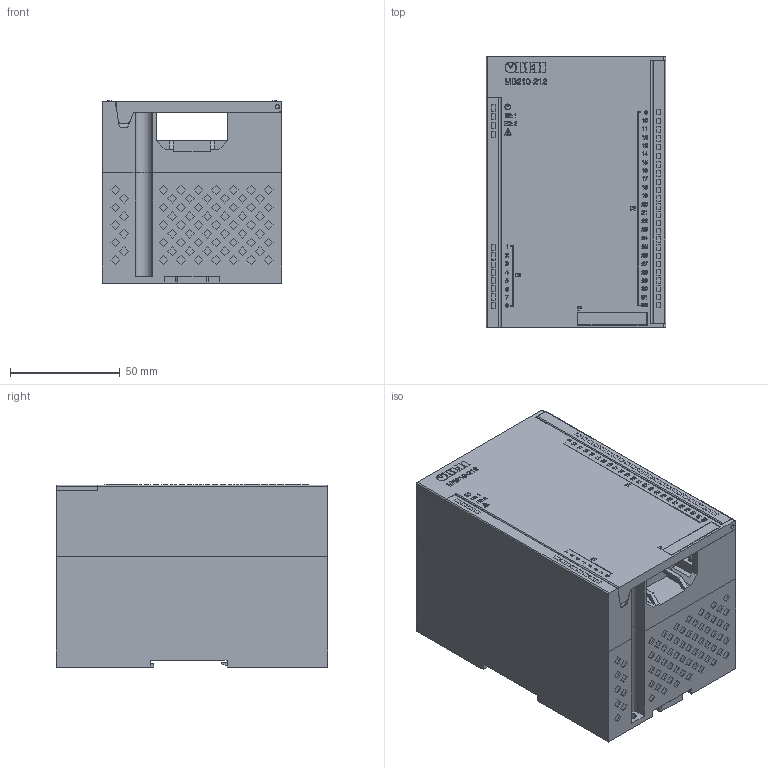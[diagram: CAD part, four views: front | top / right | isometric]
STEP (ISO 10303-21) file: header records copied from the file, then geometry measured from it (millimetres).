
FILE_DESCRIPTION (( 'STEP AP203' ), '1' );
FILE_NAME ('3D 沓麧錪 斨210-212.STEP', '2020-08-17T07:33:49', ( '' ), ( '' ), 'SwSTEP 2.0', 'SolidWorks 2015', '' );
FILE_SCHEMA (( 'CONFIG_CONTROL_DESIGN' ));
Products named in the file (9): 署赅 搪210_00; Ðîçåòêà ÌÂ210 — ëåâàÿ; 扻豵鵨 斨210_00; Ðîçåòêà ÌÂ210; micro usb b; Ethernet; 婰膲僗闉 斨210; Êëåììíèê 2çåë; 3D 沓麧錪 斨210-212
Assembly tree (9 placements, depth 2):
  3D 沓麧錪 斨210-212
    扻豵鵨 斨210_00
    婰膲僗闉 斨210
    Ðîçåòêà ÌÂ210
    Ðîçåòêà ÌÂ210 — ëåâàÿ
    署赅 搪210_00
    micro usb b
    Ethernet  x2
    Êëåììíèê 2çåë
Bounding box: 82 x 124.04 x 83.1 mm (x, y, z)
Volume: 728875.9 mm3; surface area: 135421.7 mm2
Topology: 55 solids, 55 shells, 11705 faces, 33150 edges, 22162 vertices
Faces by surface type: plane 11276, cylinder 212, torus 133, cone 84
Entity records: 372654 total; most frequent: CARTESIAN_POINT 68714, ORIENTED_EDGE 66060, DIRECTION 56783, EDGE_CURVE 33030, VECTOR 31569, LINE 31569, VERTEX_POINT 22082, AXIS2_PLACEMENT_3D 12607
